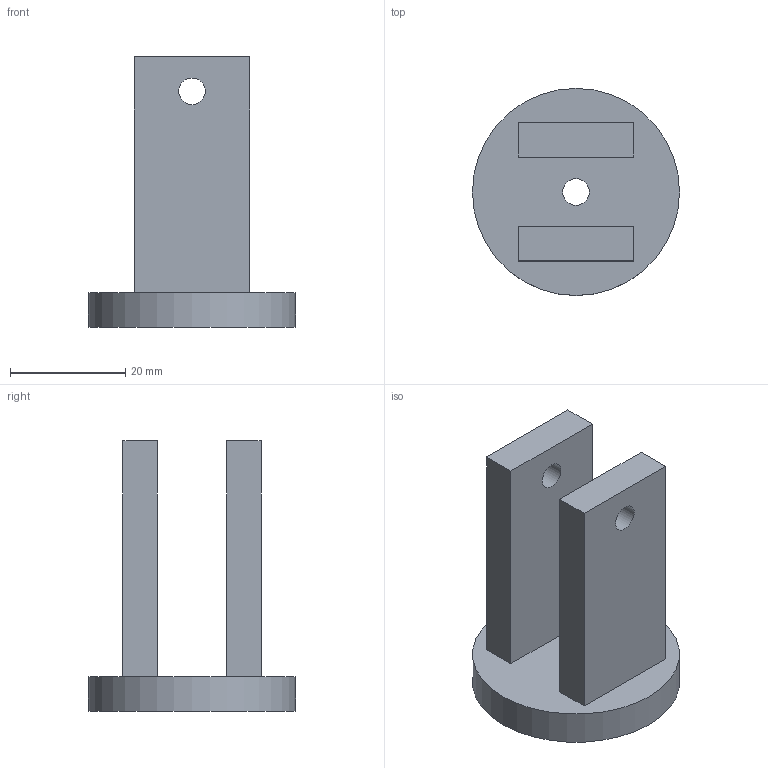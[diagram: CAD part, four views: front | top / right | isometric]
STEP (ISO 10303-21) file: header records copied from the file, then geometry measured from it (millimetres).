
FILE_DESCRIPTION(('Open CASCADE Model'),'2;1');
FILE_NAME('Open CASCADE Shape Model','2026-10-08T14:17:54',('Author'),( 'Open CASCADE'),'Open CASCADE STEP processor 7.9','Open CASCADE 7.9' ,'Unknown');
FILE_SCHEMA(('AUTOMOTIVE_DESIGN { 1 0 10303 214 1 1 1 1 }'));
Length unit declared in the file: millimetre
Products named in the file (1): Open CASCADE STEP translator 7.9 8
Bounding box: 36 x 36 x 47 mm (x, y, z)
Volume: 15648.1 mm3; surface area: 7138.7 mm2
Topology: 1 solids, 1 shells, 16 faces, 36 edges, 24 vertices
Faces by surface type: plane 12, cylinder 4
Full cylindrical faces by diameter (mm): 4.6 x3, 36 x1
Entity records: 956 total; most frequent: CARTESIAN_POINT 185, DIRECTION 144, LINE 92, VECTOR 92, ORIENTED_EDGE 72, PCURVE 72, DEFINITIONAL_REPRESENTATION 72, EDGE_CURVE 36
